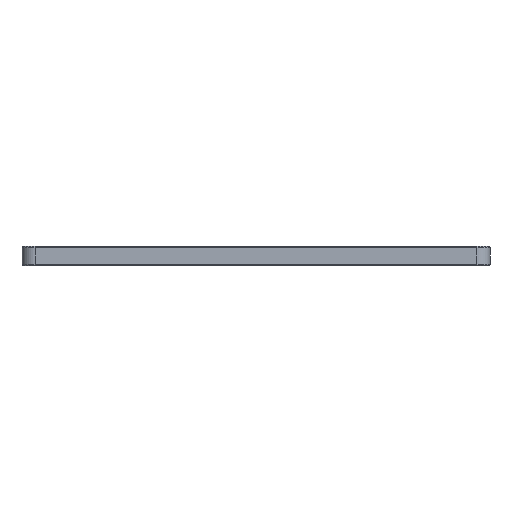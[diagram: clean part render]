
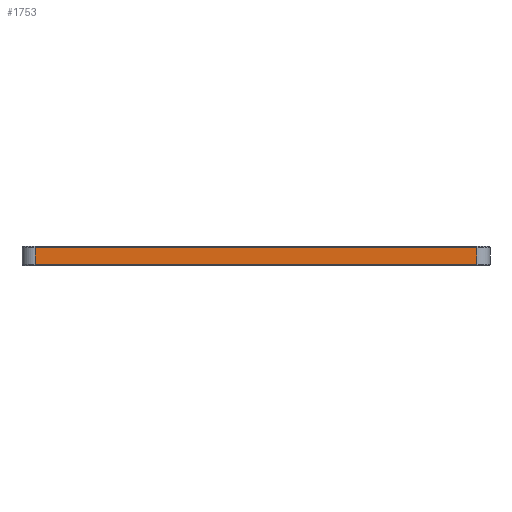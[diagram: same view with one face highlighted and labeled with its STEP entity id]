
A CAD part, front view. The second image highlights one B-rep face of the part: STEP entity #1753.
In plain terms, the highlighted planar face has unit normal (0, -1, 0).
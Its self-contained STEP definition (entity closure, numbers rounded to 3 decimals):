
#58 = ORIENTED_EDGE ( 'NONE', *, *, #161, .T. ) ;
#74 = EDGE_LOOP ( 'NONE', ( #58, #1500, #1468, #1295 ) ) ;
#78 = VERTEX_POINT ( 'NONE', #1349 ) ;
#98 = VECTOR ( 'NONE', #1595, 1000. ) ;
#112 = LINE ( 'NONE', #1778, #98 ) ;
#161 = EDGE_CURVE ( 'NONE', #257, #1777, #1737, .T. ) ;
#220 = CARTESIAN_POINT ( 'NONE',  ( 34., -59., -1.3 ) ) ;
#257 = VERTEX_POINT ( 'NONE', #1002 ) ;
#262 = DIRECTION ( 'NONE',  ( -1., 0., 0. ) ) ;
#335 = EDGE_CURVE ( 'NONE', #1777, #512, #112, .T. ) ;
#420 = VECTOR ( 'NONE', #1360, 1000. ) ;
#453 = CARTESIAN_POINT ( 'NONE',  ( -34., -59., 1.3 ) ) ;
#512 = VERTEX_POINT ( 'NONE', #220 ) ;
#581 = DIRECTION ( 'NONE',  ( 0., 0., 1. ) ) ;
#638 = LINE ( 'NONE', #453, #1579 ) ;
#773 = DIRECTION ( 'NONE',  ( 0., 1., 0. ) ) ;
#913 = CARTESIAN_POINT ( 'NONE',  ( -34., -59., -1.3 ) ) ;
#959 = CARTESIAN_POINT ( 'NONE',  ( -36., -59., 1.5 ) ) ;
#970 = FACE_OUTER_BOUND ( 'NONE', #74, .T. ) ;
#1002 = CARTESIAN_POINT ( 'NONE',  ( -34., -59., 1.3 ) ) ;
#1068 = AXIS2_PLACEMENT_3D ( 'NONE', #959, #773, #581 ) ;
#1152 = PLANE ( 'NONE',  #1068 ) ;
#1295 = ORIENTED_EDGE ( 'NONE', *, *, #1434, .T. ) ;
#1344 = DIRECTION ( 'NONE',  ( 0., 0., 1. ) ) ;
#1349 = CARTESIAN_POINT ( 'NONE',  ( 34., -59., 1.3 ) ) ;
#1360 = DIRECTION ( 'NONE',  ( 0., 0., -1. ) ) ;
#1434 = EDGE_CURVE ( 'NONE', #78, #257, #638, .T. ) ;
#1468 = ORIENTED_EDGE ( 'NONE', *, *, #1850, .T. ) ;
#1500 = ORIENTED_EDGE ( 'NONE', *, *, #335, .T. ) ;
#1531 = CARTESIAN_POINT ( 'NONE',  ( 34., -59., 1.5 ) ) ;
#1549 = CARTESIAN_POINT ( 'NONE',  ( -34., -59., 1.5 ) ) ;
#1579 = VECTOR ( 'NONE', #262, 1000. ) ;
#1595 = DIRECTION ( 'NONE',  ( 1., 0., 0. ) ) ;
#1716 = LINE ( 'NONE', #1531, #1838 ) ;
#1737 = LINE ( 'NONE', #1549, #420 ) ;
#1753 = ADVANCED_FACE ( 'NONE', ( #970 ), #1152, .F. ) ;
#1777 = VERTEX_POINT ( 'NONE', #913 ) ;
#1778 = CARTESIAN_POINT ( 'NONE',  ( -36., -59., -1.3 ) ) ;
#1838 = VECTOR ( 'NONE', #1344, 1000. ) ;
#1850 = EDGE_CURVE ( 'NONE', #512, #78, #1716, .T. ) ;
